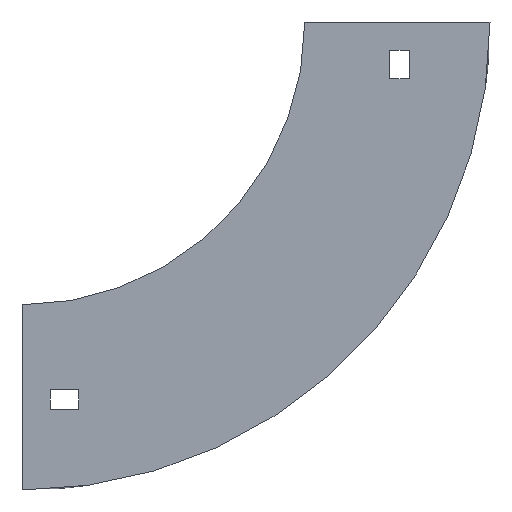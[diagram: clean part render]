
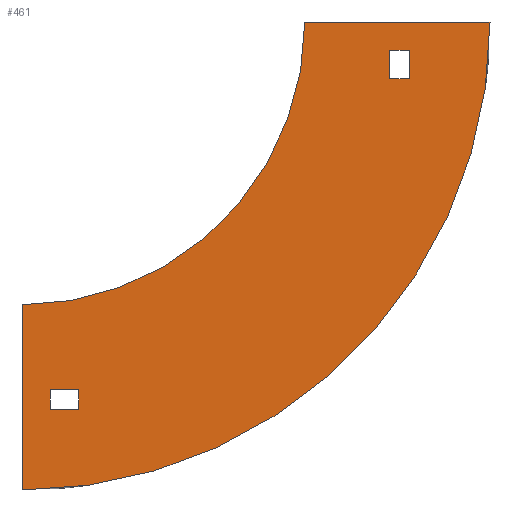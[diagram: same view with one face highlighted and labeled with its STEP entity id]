
A CAD part, left-side view. The second image highlights one B-rep face of the part: STEP entity #461.
In plain terms, the highlighted planar face has unit normal (-1, 0, 0).
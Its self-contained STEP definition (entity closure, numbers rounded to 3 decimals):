
#28 = EDGE_CURVE ( 'NONE', #773, #974, #741, .T. ) ;
#37 = VERTEX_POINT ( 'NONE', #572 ) ;
#53 = VERTEX_POINT ( 'NONE', #775 ) ;
#57 = EDGE_CURVE ( 'NONE', #172, #657, #1118, .T. ) ;
#69 = VECTOR ( 'NONE', #478, 1000. ) ;
#86 = CARTESIAN_POINT ( 'NONE',  ( -39.5, 100., 0. ) ) ;
#93 = VERTEX_POINT ( 'NONE', #603 ) ;
#113 = DIRECTION ( 'NONE',  ( 0., 0., 1. ) ) ;
#117 = DIRECTION ( 'NONE',  ( 0., 1., 0. ) ) ;
#118 = EDGE_CURVE ( 'NONE', #420, #172, #373, .T. ) ;
#125 = CARTESIAN_POINT ( 'NONE',  ( -39.5, -30., -10. ) ) ;
#141 = VECTOR ( 'NONE', #117, 1000. ) ;
#169 = ORIENTED_EDGE ( 'NONE', *, *, #641, .F. ) ;
#172 = VERTEX_POINT ( 'NONE', #274 ) ;
#177 = LINE ( 'NONE', #717, #680 ) ;
#178 = EDGE_CURVE ( 'NONE', #657, #37, #782, .T. ) ;
#180 = ORIENTED_EDGE ( 'NONE', *, *, #921, .F. ) ;
#183 = VECTOR ( 'NONE', #922, 1000. ) ;
#190 = EDGE_CURVE ( 'NONE', #705, #53, #177, .T. ) ;
#199 = EDGE_CURVE ( 'NONE', #93, #1067, #1065, .T. ) ;
#205 = CARTESIAN_POINT ( 'NONE',  ( -39.5, -65.5, 0. ) ) ;
#226 = CARTESIAN_POINT ( 'NONE',  ( -39.5, 100., -100. ) ) ;
#235 = LINE ( 'NONE', #593, #961 ) ;
#240 = DIRECTION ( 'NONE',  ( 0., 0., -1. ) ) ;
#252 = DIRECTION ( 'NONE',  ( 1., 0., 0. ) ) ;
#258 = EDGE_LOOP ( 'NONE', ( #1011, #814, #488, #169 ) ) ;
#259 = DIRECTION ( 'NONE',  ( 0., -1., 0. ) ) ;
#274 = CARTESIAN_POINT ( 'NONE',  ( -39.5, 100., -165.5 ) ) ;
#276 = ORIENTED_EDGE ( 'NONE', *, *, #664, .F. ) ;
#281 = CARTESIAN_POINT ( 'NONE',  ( -39.5, -37., -10. ) ) ;
#286 = CARTESIAN_POINT ( 'NONE',  ( -39.5, -30., -20. ) ) ;
#290 = AXIS2_PLACEMENT_3D ( 'NONE', #1115, #252, #1138 ) ;
#311 = VERTEX_POINT ( 'NONE', #744 ) ;
#320 = VECTOR ( 'NONE', #1061, 1000. ) ;
#354 = ORIENTED_EDGE ( 'NONE', *, *, #1069, .F. ) ;
#372 = DIRECTION ( 'NONE',  ( -1., 0., 0. ) ) ;
#373 = CIRCLE ( 'NONE', #1012, 165.5 ) ;
#379 = LINE ( 'NONE', #819, #1128 ) ;
#399 = ORIENTED_EDGE ( 'NONE', *, *, #982, .T. ) ;
#412 = FACE_BOUND ( 'NONE', #988, .T. ) ;
#420 = VERTEX_POINT ( 'NONE', #959 ) ;
#461 = ADVANCED_FACE ( 'NONE', ( #690, #412, #869 ), #1129, .F. ) ;
#464 = LINE ( 'NONE', #205, #69 ) ;
#478 = DIRECTION ( 'NONE',  ( 0., -1., 0. ) ) ;
#479 = ORIENTED_EDGE ( 'NONE', *, *, #28, .T. ) ;
#485 = CARTESIAN_POINT ( 'NONE',  ( -39.5, 80., -130. ) ) ;
#488 = ORIENTED_EDGE ( 'NONE', *, *, #118, .F. ) ;
#508 = VECTOR ( 'NONE', #259, 1000. ) ;
#535 = VECTOR ( 'NONE', #627, 1000. ) ;
#547 = LINE ( 'NONE', #1044, #508 ) ;
#552 = DIRECTION ( 'NONE',  ( 0., 0., -1. ) ) ;
#572 = CARTESIAN_POINT ( 'NONE',  ( -39.5, 0., 0. ) ) ;
#593 = CARTESIAN_POINT ( 'NONE',  ( -39.5, 90., -130. ) ) ;
#603 = CARTESIAN_POINT ( 'NONE',  ( -39.5, -30., -10. ) ) ;
#627 = DIRECTION ( 'NONE',  ( 0., -1., 0. ) ) ;
#641 = EDGE_CURVE ( 'NONE', #37, #420, #464, .T. ) ;
#650 = VECTOR ( 'NONE', #957, 1000. ) ;
#657 = VERTEX_POINT ( 'NONE', #825 ) ;
#664 = EDGE_CURVE ( 'NONE', #311, #705, #379, .T. ) ;
#668 = DIRECTION ( 'NONE',  ( 1., 0., 0. ) ) ;
#680 = VECTOR ( 'NONE', #1054, 1000. ) ;
#690 = FACE_OUTER_BOUND ( 'NONE', #258, .T. ) ;
#705 = VERTEX_POINT ( 'NONE', #485 ) ;
#717 = CARTESIAN_POINT ( 'NONE',  ( -39.5, 90., -130. ) ) ;
#741 = LINE ( 'NONE', #745, #141 ) ;
#744 = CARTESIAN_POINT ( 'NONE',  ( -39.5, 80., -137. ) ) ;
#745 = CARTESIAN_POINT ( 'NONE',  ( -39.5, -30., -20. ) ) ;
#758 = VERTEX_POINT ( 'NONE', #984 ) ;
#773 = VERTEX_POINT ( 'NONE', #1048 ) ;
#775 = CARTESIAN_POINT ( 'NONE',  ( -39.5, 90., -130. ) ) ;
#782 = CIRCLE ( 'NONE', #1090, 100. ) ;
#813 = CARTESIAN_POINT ( 'NONE',  ( -39.5, -37., -10. ) ) ;
#814 = ORIENTED_EDGE ( 'NONE', *, *, #57, .F. ) ;
#819 = CARTESIAN_POINT ( 'NONE',  ( -39.5, 80., -130. ) ) ;
#821 = EDGE_CURVE ( 'NONE', #974, #93, #873, .T. ) ;
#825 = CARTESIAN_POINT ( 'NONE',  ( -39.5, 100., -100. ) ) ;
#869 = FACE_BOUND ( 'NONE', #1100, .T. ) ;
#873 = LINE ( 'NONE', #125, #650 ) ;
#904 = LINE ( 'NONE', #281, #320 ) ;
#917 = ORIENTED_EDGE ( 'NONE', *, *, #199, .T. ) ;
#921 = EDGE_CURVE ( 'NONE', #53, #758, #235, .T. ) ;
#922 = DIRECTION ( 'NONE',  ( 0., 0., 1. ) ) ;
#934 = ORIENTED_EDGE ( 'NONE', *, *, #190, .F. ) ;
#940 = DIRECTION ( 'NONE',  ( 0., 0., -1. ) ) ;
#957 = DIRECTION ( 'NONE',  ( 0., 0., 1. ) ) ;
#959 = CARTESIAN_POINT ( 'NONE',  ( -39.5, -65.5, 0. ) ) ;
#961 = VECTOR ( 'NONE', #940, 1000. ) ;
#974 = VERTEX_POINT ( 'NONE', #286 ) ;
#977 = CARTESIAN_POINT ( 'NONE',  ( -39.5, -30., -10. ) ) ;
#982 = EDGE_CURVE ( 'NONE', #1067, #773, #904, .T. ) ;
#984 = CARTESIAN_POINT ( 'NONE',  ( -39.5, 90., -137. ) ) ;
#988 = EDGE_LOOP ( 'NONE', ( #1075, #917, #399, #479 ) ) ;
#1011 = ORIENTED_EDGE ( 'NONE', *, *, #178, .F. ) ;
#1012 = AXIS2_PLACEMENT_3D ( 'NONE', #1028, #668, #240 ) ;
#1028 = CARTESIAN_POINT ( 'NONE',  ( -39.5, 100., 0. ) ) ;
#1044 = CARTESIAN_POINT ( 'NONE',  ( -39.5, 90., -137. ) ) ;
#1048 = CARTESIAN_POINT ( 'NONE',  ( -39.5, -37., -20. ) ) ;
#1054 = DIRECTION ( 'NONE',  ( 0., 1., 0. ) ) ;
#1061 = DIRECTION ( 'NONE',  ( 0., 0., -1. ) ) ;
#1065 = LINE ( 'NONE', #977, #535 ) ;
#1067 = VERTEX_POINT ( 'NONE', #813 ) ;
#1069 = EDGE_CURVE ( 'NONE', #758, #311, #547, .T. ) ;
#1075 = ORIENTED_EDGE ( 'NONE', *, *, #821, .T. ) ;
#1090 = AXIS2_PLACEMENT_3D ( 'NONE', #86, #372, #552 ) ;
#1100 = EDGE_LOOP ( 'NONE', ( #180, #934, #276, #354 ) ) ;
#1115 = CARTESIAN_POINT ( 'NONE',  ( -39.5, 100., 0. ) ) ;
#1118 = LINE ( 'NONE', #226, #183 ) ;
#1128 = VECTOR ( 'NONE', #113, 1000. ) ;
#1129 = PLANE ( 'NONE',  #290 ) ;
#1138 = DIRECTION ( 'NONE',  ( 0., 0., -1. ) ) ;
